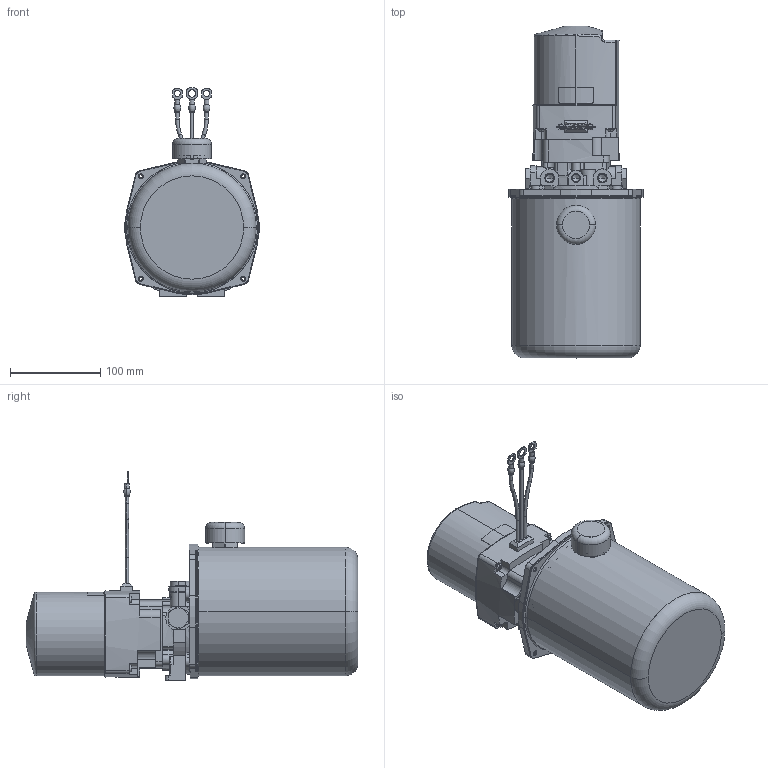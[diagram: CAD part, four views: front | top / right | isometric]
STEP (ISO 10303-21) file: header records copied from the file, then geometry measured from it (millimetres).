
FILE_DESCRIPTION((''),'2;1');
FILE_NAME('108-AM-BI-H_ASM','2013-07-22T',('da10877'),('OILDYNE'),'PRO/ENGINEER BY PARAMETRIC TECHNOLOGY CORPORATION, 2011490','PRO/ENGINEER BY PARAMETRIC TECHNOLOGY CORPORATION, 2011490','');
FILE_SCHEMA(('CONFIG_CONTROL_DESIGN'));
Length unit declared in the file: inch
Products named in the file (1): 108-AM-BI-H_ASM
Bounding box: 148.8 x 367.86 x 231.13 mm (x, y, z)
Volume: 1480091.3 mm3; surface area: 358610.2 mm2
Topology: 2 solids, 11 shells, 1181 faces, 3085 edges, 1961 vertices
Faces by surface type: plane 527, cylinder 403, cone 110, torus 97, bspline 38, sphere 6
Entity records: 38750 total; most frequent: CARTESIAN_POINT 9497, DIRECTION 6216, ORIENTED_EDGE 6110, EDGE_CURVE 3067, AXIS2_PLACEMENT_3D 2326, VERTEX_POINT 1961, VECTOR 1564, LINE 1564
